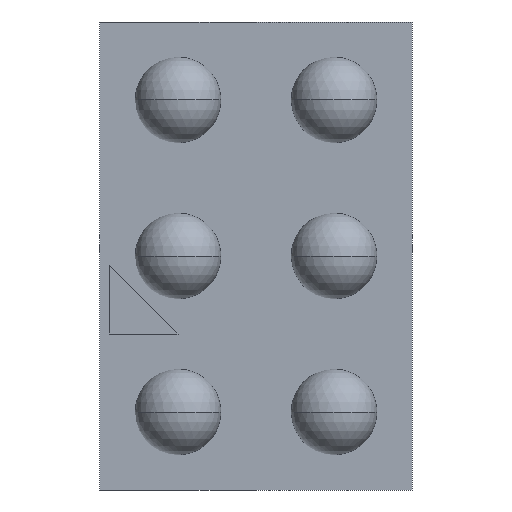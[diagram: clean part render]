
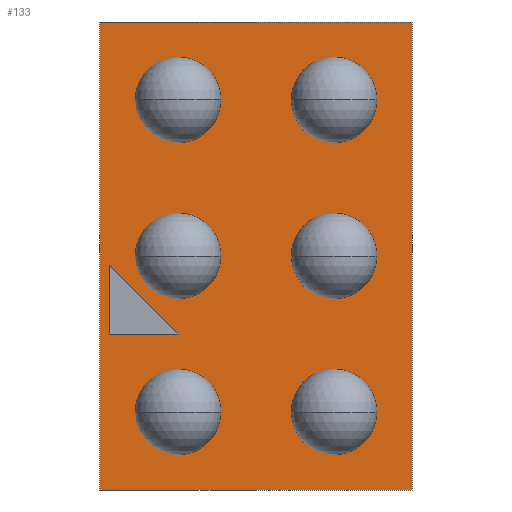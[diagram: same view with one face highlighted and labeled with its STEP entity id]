
A CAD part, front view. The second image highlights one B-rep face of the part: STEP entity #133.
In plain terms, the highlighted planar face has unit normal (0, -1, 0).
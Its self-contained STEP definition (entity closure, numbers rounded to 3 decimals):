
#1 = DIRECTION ( 'NONE',  ( -0.707, 0., 0.707 ) ) ;
#21 = ORIENTED_EDGE ( 'NONE', *, *, #184, .F. ) ;
#39 = FACE_OUTER_BOUND ( 'NONE', #313, .T. ) ;
#41 = ORIENTED_EDGE ( 'NONE', *, *, #482, .F. ) ;
#48 = VERTEX_POINT ( 'NONE', #730 ) ;
#51 = VECTOR ( 'NONE', #1, 1000. ) ;
#53 = VERTEX_POINT ( 'NONE', #1065 ) ;
#84 = CARTESIAN_POINT ( 'NONE',  ( -0.375, 0.19, -0.2 ) ) ;
#93 = AXIS2_PLACEMENT_3D ( 'NONE', #282, #617, #1083 ) ;
#133 = ADVANCED_FACE ( 'NONE', ( #869, #39 ), #705, .T. ) ;
#142 = LINE ( 'NONE', #481, #222 ) ;
#153 = CARTESIAN_POINT ( 'NONE',  ( -0.4, 0.19, -0.6 ) ) ;
#158 = LINE ( 'NONE', #995, #374 ) ;
#184 = EDGE_CURVE ( 'NONE', #346, #53, #142, .T. ) ;
#222 = VECTOR ( 'NONE', #825, 1000. ) ;
#233 = LINE ( 'NONE', #601, #658 ) ;
#256 = VECTOR ( 'NONE', #900, 1000. ) ;
#267 = CARTESIAN_POINT ( 'NONE',  ( -0.2, 0.19, -0.2 ) ) ;
#278 = ORIENTED_EDGE ( 'NONE', *, *, #571, .F. ) ;
#282 = CARTESIAN_POINT ( 'NONE',  ( 0., 0.19, 0. ) ) ;
#297 = CARTESIAN_POINT ( 'NONE',  ( -0.375, 0.19, -0.025 ) ) ;
#301 = VECTOR ( 'NONE', #484, 1000. ) ;
#313 = EDGE_LOOP ( 'NONE', ( #21, #620, #732, #278 ) ) ;
#340 = EDGE_CURVE ( 'NONE', #936, #346, #158, .T. ) ;
#346 = VERTEX_POINT ( 'NONE', #918 ) ;
#374 = VECTOR ( 'NONE', #1095, 1000. ) ;
#384 = VERTEX_POINT ( 'NONE', #659 ) ;
#386 = EDGE_CURVE ( 'NONE', #702, #48, #761, .T. ) ;
#433 = EDGE_CURVE ( 'NONE', #959, #936, #233, .T. ) ;
#436 = EDGE_LOOP ( 'NONE', ( #578, #41, #547 ) ) ;
#481 = CARTESIAN_POINT ( 'NONE',  ( 0.4, 0.19, 0.6 ) ) ;
#482 = EDGE_CURVE ( 'NONE', #384, #702, #496, .T. ) ;
#484 = DIRECTION ( 'NONE',  ( -1., 0., 0. ) ) ;
#496 = LINE ( 'NONE', #84, #733 ) ;
#547 = ORIENTED_EDGE ( 'NONE', *, *, #741, .F. ) ;
#571 = EDGE_CURVE ( 'NONE', #53, #959, #749, .T. ) ;
#578 = ORIENTED_EDGE ( 'NONE', *, *, #386, .F. ) ;
#585 = CARTESIAN_POINT ( 'NONE',  ( -0.2, 0.19, -0.2 ) ) ;
#591 = DIRECTION ( 'NONE',  ( 1., 0., 0. ) ) ;
#601 = CARTESIAN_POINT ( 'NONE',  ( -0.4, 0.19, 0.6 ) ) ;
#617 = DIRECTION ( 'NONE',  ( 0., -1., 0. ) ) ;
#620 = ORIENTED_EDGE ( 'NONE', *, *, #340, .F. ) ;
#658 = VECTOR ( 'NONE', #781, 1000. ) ;
#659 = CARTESIAN_POINT ( 'NONE',  ( -0.375, 0.19, -0.2 ) ) ;
#702 = VERTEX_POINT ( 'NONE', #267 ) ;
#705 = PLANE ( 'NONE',  #93 ) ;
#730 = CARTESIAN_POINT ( 'NONE',  ( -0.375, 0.19, -0.025 ) ) ;
#732 = ORIENTED_EDGE ( 'NONE', *, *, #433, .F. ) ;
#733 = VECTOR ( 'NONE', #591, 1000. ) ;
#741 = EDGE_CURVE ( 'NONE', #48, #384, #808, .T. ) ;
#749 = LINE ( 'NONE', #153, #301 ) ;
#761 = LINE ( 'NONE', #585, #51 ) ;
#781 = DIRECTION ( 'NONE',  ( 0., 0., 1. ) ) ;
#808 = LINE ( 'NONE', #297, #256 ) ;
#825 = DIRECTION ( 'NONE',  ( 0., 0., -1. ) ) ;
#869 = FACE_BOUND ( 'NONE', #436, .T. ) ;
#900 = DIRECTION ( 'NONE',  ( 0., 0., -1. ) ) ;
#918 = CARTESIAN_POINT ( 'NONE',  ( 0.4, 0.19, 0.6 ) ) ;
#936 = VERTEX_POINT ( 'NONE', #1044 ) ;
#959 = VERTEX_POINT ( 'NONE', #1006 ) ;
#995 = CARTESIAN_POINT ( 'NONE',  ( -0.4, 0.19, 0.6 ) ) ;
#1006 = CARTESIAN_POINT ( 'NONE',  ( -0.4, 0.19, -0.6 ) ) ;
#1044 = CARTESIAN_POINT ( 'NONE',  ( -0.4, 0.19, 0.6 ) ) ;
#1065 = CARTESIAN_POINT ( 'NONE',  ( 0.4, 0.19, -0.6 ) ) ;
#1083 = DIRECTION ( 'NONE',  ( 0., 0., -1. ) ) ;
#1095 = DIRECTION ( 'NONE',  ( 1., 0., 0. ) ) ;
